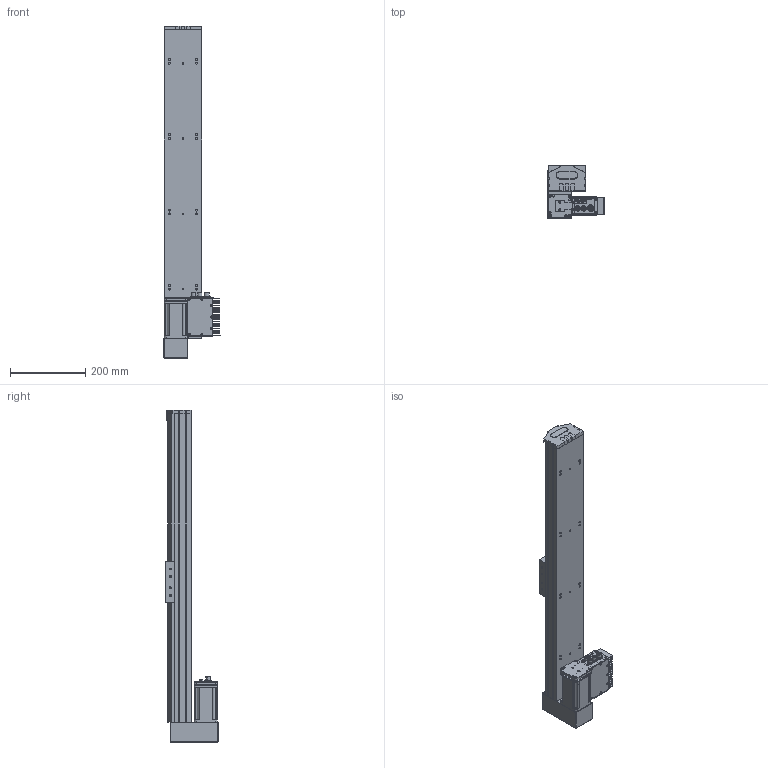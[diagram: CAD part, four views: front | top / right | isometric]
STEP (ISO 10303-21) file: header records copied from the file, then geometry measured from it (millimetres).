
FILE_DESCRIPTION (( 'STEP AP203' ), '1' );
FILE_NAME ('S 10 TSH BM S600.STEP', '2012-09-07T12:42:06', ( 'Conseil Régional Haute-Normandie' ), ( 'Conseil Régional Haute-Normandie' ), 'SwSTEP 2.0', 'SolidWorks 2010', '' );
FILE_SCHEMA (( 'CONFIG_CONTROL_DESIGN' ));
Length unit declared in the file: millimetre
Products named in the file (25): embout_modifié; BU41 Carte Alimentation P05_3; T_X2_00F4_X0_le contre le moteur_5; Colonnette_3; Connecteur rond D10 3cts_5; Connecteur rond D12 4cts_5; Vis TF 3 torkx_1_1; T_X2_00F4_X0_le lat_X2_00E9_X0_rale_5; Copie de renvoie LH2_Default; S 10 TSH BM S600; axe820_Default; piece_plastique remplieTSH_Default; remplir_Default; Pièce2_Default; palette tbn2; Assem1_7; BU45 Carte d''axe A11_5; Moteur 60BLDC90A_3; Couvercle_3; T_X2_00F4_X0_le fond_3; Sub D 9cts 90_X2_00B_X0__3; Radiateur profil_X2_00E9_X0_ 100x25_3; Colonnette ronde_3; T_X2_00F4_X0_le Arri_X2_00E8_X0_re_5; Vis TF 3 torkx
Assembly tree (55 placements, depth 3):
  S 10 TSH BM S600
    piece_plastique remplieTSH_Default
      remplir_Default  x3
      embout_modifié
      Pièce2_Default
    Assem1_7
      Vis TF 3 torkx_1_1  x21
      T_X2_00F4_X0_le contre le moteur_5
      BU45 Carte d''axe A11_5
      T_X2_00F4_X0_le fond_3
      Sub D 9cts 90_X2_00B_X0__3
      Colonnette_3  x2
      Connecteur rond D10 3cts_5  x2
      T_X2_00F4_X0_le lat_X2_00E9_X0_rale_5  x2
      Connecteur rond D12 4cts_5
      BU41 Carte Alimentation P05_3
      Radiateur profil_X2_00E9_X0_ 100x25_3
      Couvercle_3
      Colonnette ronde_3
      T_X2_00F4_X0_le Arri_X2_00E8_X0_re_5
      Moteur 60BLDC90A_3
    axe820_Default
    Vis TF 3 torkx  x7
    palette tbn2
    Copie de renvoie LH2_Default
Bounding box: 149.38 x 138.75 x 882 mm (x, y, z)
Volume: 4978325.1 mm3; surface area: 705722.6 mm2
Topology: 53 solids, 53 shells, 1980 faces, 5038 edges, 3278 vertices
Faces by surface type: plane 926, cylinder 883, cone 164, sphere 4, torus 3
Entity records: 38977 total; most frequent: CARTESIAN_POINT 6528, DIRECTION 6365, ORIENTED_EDGE 5768, EDGE_CURVE 2884, AXIS2_PLACEMENT_3D 2340, VERTEX_POINT 1890, LINE 1685, VECTOR 1685
